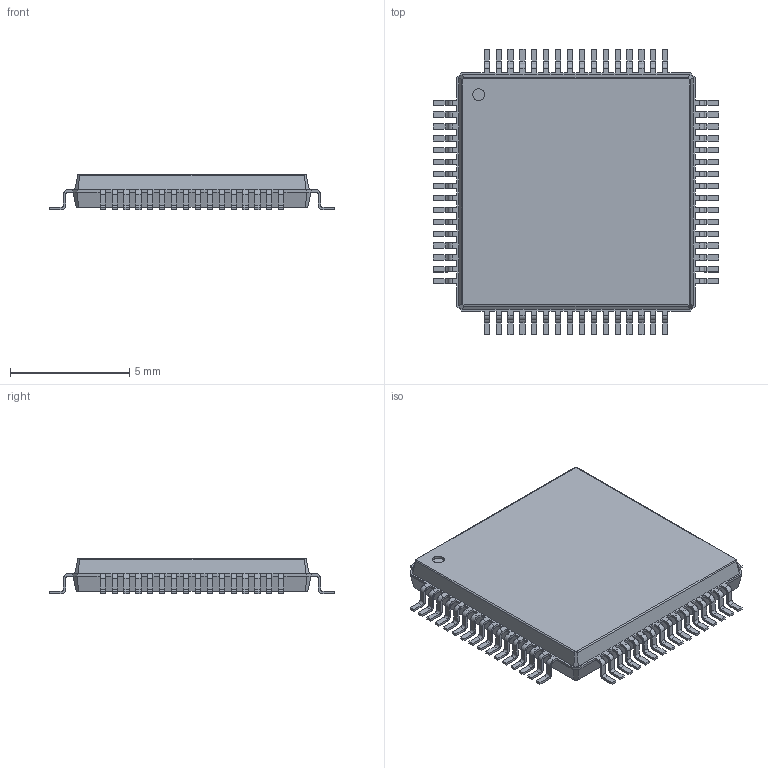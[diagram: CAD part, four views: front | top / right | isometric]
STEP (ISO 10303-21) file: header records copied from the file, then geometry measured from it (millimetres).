
FILE_DESCRIPTION (( 'STEP AP214' ), '1' );
FILE_NAME ('LQFP-64_10x10mm_P0.5mm_navX2-mxp-cad.step', '2025-12-23T16:03:52', ( '' ), ( '' ), 'SwSTEP 2.0', 'SolidWorks 2026', '' );
FILE_SCHEMA (( 'AUTOMOTIVE_DESIGN' ));
Length unit declared in the file: inch
Products named in the file (2): SOLID-1_LQFP-64_10x10mm_P0.5mm_navX2-mxp-cad; LQFP-64_10x10mm_P0.5mm_navX2-mxp-cad
Assembly tree (1 placements, depth 2):
  LQFP-64_10x10mm_P0.5mm_navX2-mxp-cad
    SOLID-1_LQFP-64_10x10mm_P0.5mm_navX2-mxp-cad
Bounding box: 12 x 12 x 1.5 mm (x, y, z)
Volume: 136.7 mm3; surface area: 310.8 mm2
Topology: 1 solids, 1 shells, 1005 faces, 2718 edges, 1716 vertices
Faces by surface type: plane 651, cylinder 258, bspline 96
Entity records: 33415 total; most frequent: CARTESIAN_POINT 8181, ORIENTED_EDGE 5436, DIRECTION 5004, EDGE_CURVE 2718, LINE 2146, VECTOR 2146, VERTEX_POINT 1716, AXIS2_PLACEMENT_3D 1429
